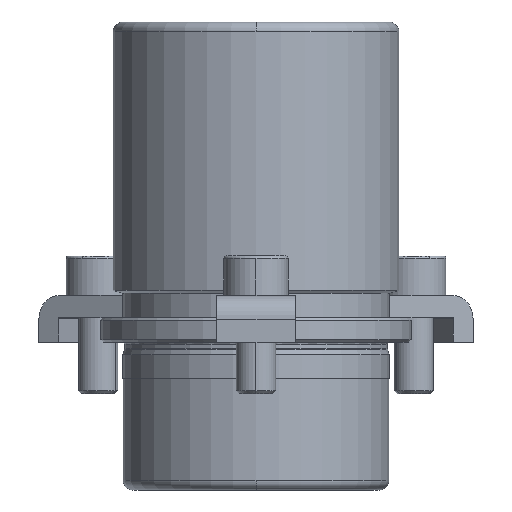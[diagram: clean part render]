
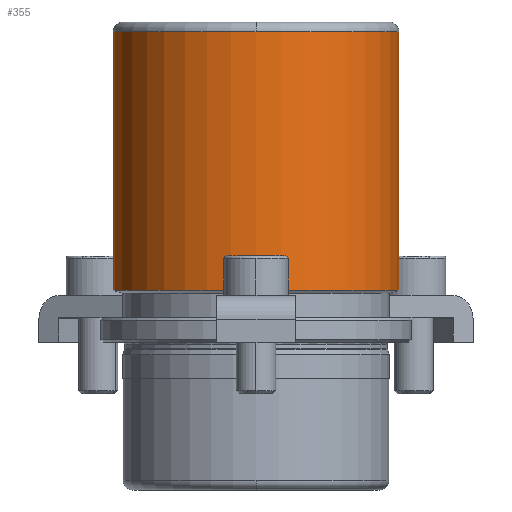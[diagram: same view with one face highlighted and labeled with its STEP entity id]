
A CAD part, front view. The second image highlights one B-rep face of the part: STEP entity #355.
In plain terms, the highlighted cylindrical face has radius 29 mm (diameter 58 mm), a partial arc.
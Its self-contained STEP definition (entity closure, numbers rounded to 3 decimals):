
#269=CARTESIAN_POINT('',(0.0,-29.,63.));
#270=VERTEX_POINT('',#269);
#296=CARTESIAN_POINT('',(-29.0,0.,63.0));
#297=VERTEX_POINT('',#296);
#305=CARTESIAN_POINT('',(0.0,0.,63.0));
#306=DIRECTION('',(0.0,0.0,1.0));
#307=DIRECTION('',(1.0,0.0,0.0));
#308=AXIS2_PLACEMENT_3D('',#305,#306,#307);
#309=CIRCLE('',#308,29.0);
#310=EDGE_CURVE('',#297,#270,#309,.T.);
#315=CARTESIAN_POINT('',(0.0,0.,36.75));
#316=DIRECTION('',(0.0,0.,1.0));
#317=DIRECTION('',(1.0,0.0,0.0));
#318=AXIS2_PLACEMENT_3D('',#315,#316,#317);
#319=CYLINDRICAL_SURFACE('',#318,29.0);
#320=CARTESIAN_POINT('',(29.0,0.,63.0));
#321=VERTEX_POINT('',#320);
#322=CARTESIAN_POINT('',(29.0,0.,10.5));
#323=VERTEX_POINT('',#322);
#324=CARTESIAN_POINT('',(29.0,0.,63.0));
#325=DIRECTION('',(0.0,0.0,-1.0));
#326=VECTOR('',#325,52.5);
#327=LINE('',#324,#326);
#328=EDGE_CURVE('',#321,#323,#327,.T.);
#329=ORIENTED_EDGE('',*,*,#328,.F.);
#330=CARTESIAN_POINT('',(0.0,0.,63.0));
#331=DIRECTION('',(0.0,0.0,1.0));
#332=DIRECTION('',(1.0,0.0,0.0));
#333=AXIS2_PLACEMENT_3D('',#330,#331,#332);
#334=CIRCLE('',#333,29.0);
#335=EDGE_CURVE('',#270,#321,#334,.T.);
#336=ORIENTED_EDGE('',*,*,#335,.F.);
#337=ORIENTED_EDGE('',*,*,#310,.F.);
#338=CARTESIAN_POINT('',(-29.0,0.,10.5));
#339=VERTEX_POINT('',#338);
#340=CARTESIAN_POINT('',(-29.0,0.,63.0));
#341=DIRECTION('',(0.0,0.0,-1.0));
#342=VECTOR('',#341,52.5);
#343=LINE('',#340,#342);
#344=EDGE_CURVE('',#297,#339,#343,.T.);
#345=ORIENTED_EDGE('',*,*,#344,.T.);
#346=CARTESIAN_POINT('',(0.0,0.,10.5));
#347=DIRECTION('',(0.0,0.0,1.0));
#348=DIRECTION('',(1.0,0.0,0.0));
#349=AXIS2_PLACEMENT_3D('',#346,#347,#348);
#350=CIRCLE('',#349,29.0);
#351=EDGE_CURVE('',#339,#323,#350,.T.);
#352=ORIENTED_EDGE('',*,*,#351,.T.);
#353=EDGE_LOOP('',(#329,#336,#337,#345,#352));
#354=FACE_OUTER_BOUND('',#353,.T.);
#355=ADVANCED_FACE('',(#354),#319,.T.);
